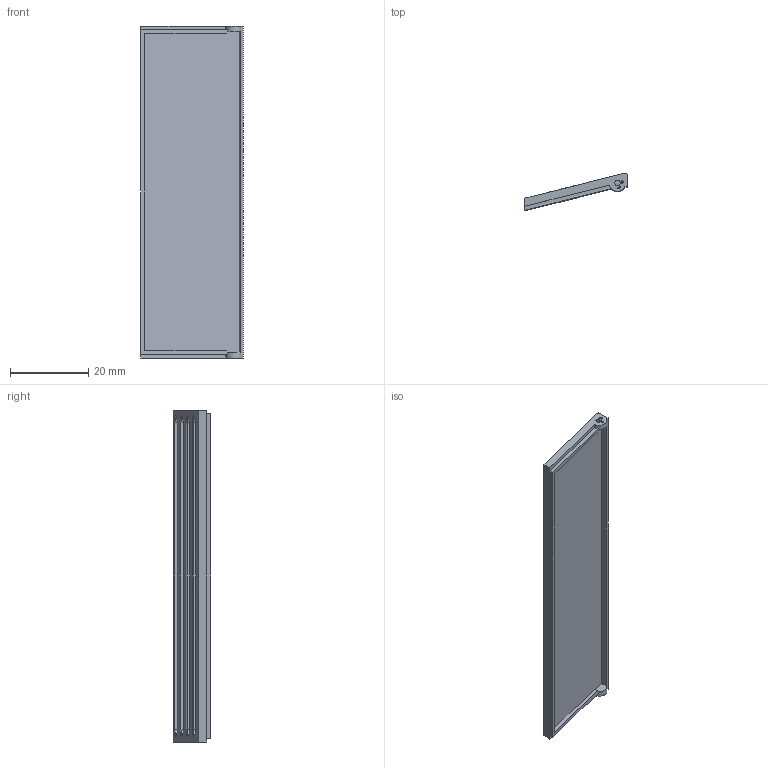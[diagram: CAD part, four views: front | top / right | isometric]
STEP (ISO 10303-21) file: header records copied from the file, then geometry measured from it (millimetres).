
FILE_DESCRIPTION((''),'2;1');
FILE_NAME('TOP_ZSL2','2024-12-18T',('18137'),(''),'CREO PARAMETRIC BY PTC INC, 2016050','CREO PARAMETRIC BY PTC INC, 2016050','');
FILE_SCHEMA(('CONFIG_CONTROL_DESIGN'));
Length unit declared in the file: millimetre
Products named in the file (1): TOP_ZSL2
Bounding box: 26.25 x 9.54 x 85 mm (x, y, z)
Volume: 3806.7 mm3; surface area: 6108.3 mm2
Topology: 1 solids, 1 shells, 86 faces, 216 edges, 134 vertices
Faces by surface type: plane 43, cylinder 23, bspline 16, sphere 4
Entity records: 3978 total; most frequent: CARTESIAN_POINT 1984, ORIENTED_EDGE 424, DIRECTION 368, EDGE_CURVE 212, VERTEX_POINT 134, VECTOR 132, LINE 132, AXIS2_PLACEMENT_3D 118
